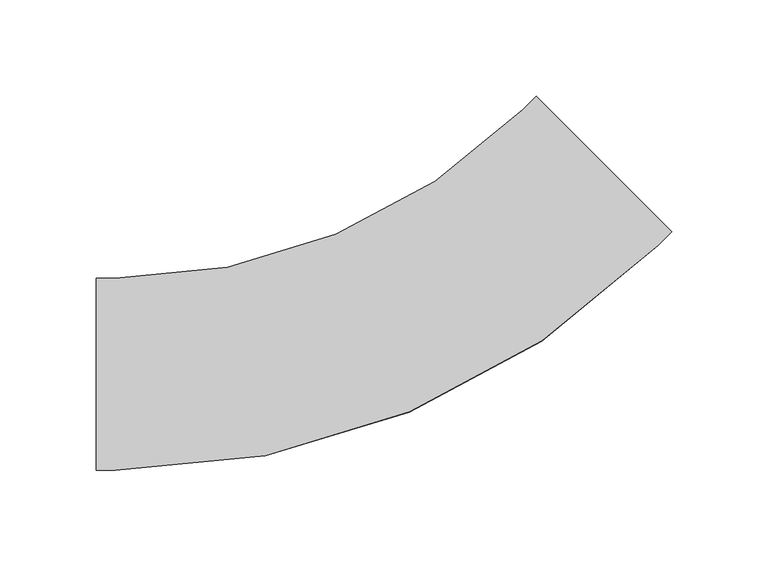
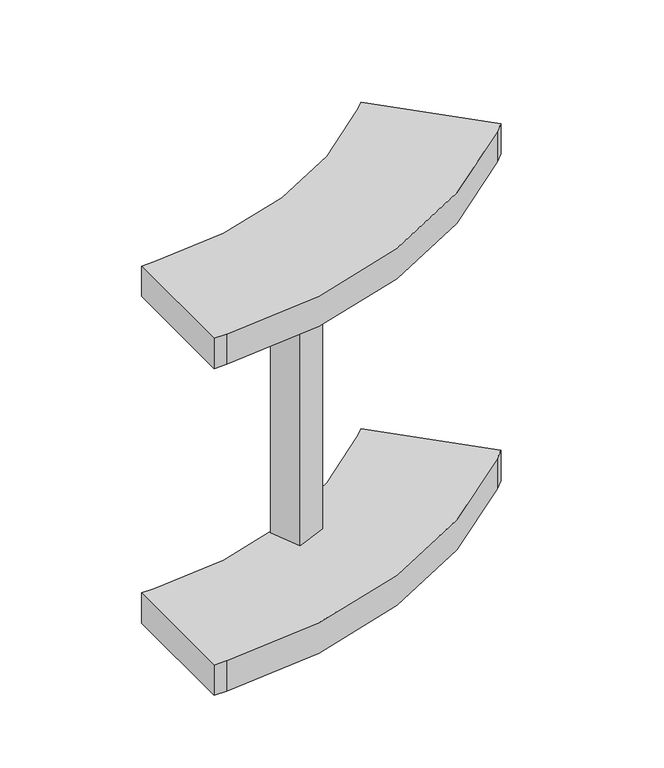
"""IFC4 building model written with IfcOpenShell, lengths in millimetres: cable carrier fitting geometry, ADSK_Поворот вертикальный наружный_Лестничный лоток : Радиус 300 мм."""

from ifc_helpers import new_model, si_unit, point, frame, frame_2d, origin, place, context, project, spatial, polyline, circle_curve, trimmed, segment, composite_curve, outline, extrude, source, transform, mapped, element, save


def cable_carrier_fitting_60ab624f(model_context):
    return source(origin(), model_context, "Body", "SweptSolid", [
        extrude(outline(polyline([(-18.4364471, 77.6962198), (-8.7162879, 54.2296797), (-32.182828, 44.5095205), (-41.9029872, 67.9760607), (-18.4364471, 77.6962198)])), frame((0.0, 0.0, -124.6), z_axis=(0.0, 0.0, 1.0), x_axis=(1.0, 0.0, 0.0)), (0.0, 0.0, 1.0), 249.2),
        extrude(outline(composite_curve([segment(polyline([(-154.9747468, -50.0), (-154.9747468, 50.0), (-144.9747468, 50.0)]), True, "CONTINUOUS"), segment(trimmed(circle_curve(frame_2d((-144.9747468, 350.0)), 300.0), [point((-144.9747468, 50.0))], [point((67.1572875, 137.8679656))], True, "CARTESIAN"), True, "CONTINUOUS"), segment(polyline([(67.1572875, 137.8679656), (74.2283553, 144.9390335), (144.9390335, 74.2283553), (137.8679656, 67.1572875)]), True, "CONTINUOUS"), segment(trimmed(circle_curve(frame_2d((-144.9747468, 350.0)), 400.0), [point((137.8679656, 67.1572875))], [point((-144.9747468, -50.0))], False, "CARTESIAN"), True, "CONTINUOUS"), segment(polyline([(-144.9747468, -50.0), (-154.9747468, -50.0)]), True, "CONTINUOUS")], self_intersect=False)), frame((0.0, 0.0, 124.6), z_axis=(0.0, 0.0, 1.0), x_axis=(1.0, 0.0, 0.0)), (0.0, 0.0, 1.0), 25.4),
        extrude(outline(composite_curve([segment(polyline([(-154.9747468, -50.0), (-154.9747468, 50.0), (-144.9747468, 50.0)]), True, "CONTINUOUS"), segment(trimmed(circle_curve(frame_2d((-144.9747468, 350.0)), 300.0), [point((-144.9747468, 50.0))], [point((67.1572875, 137.8679656))], True, "CARTESIAN"), True, "CONTINUOUS"), segment(polyline([(67.1572875, 137.8679656), (74.2283553, 144.9390335), (144.9390335, 74.2283553), (137.8679656, 67.1572875)]), True, "CONTINUOUS"), segment(trimmed(circle_curve(frame_2d((-144.9747468, 350.0)), 400.0), [point((137.8679656, 67.1572875))], [point((-144.9747468, -50.0))], False, "CARTESIAN"), True, "CONTINUOUS"), segment(polyline([(-144.9747468, -50.0), (-154.9747468, -50.0)]), True, "CONTINUOUS")], self_intersect=False)), frame((0.0, 0.0, -150.0), z_axis=(0.0, 0.0, 1.0), x_axis=(1.0, 0.0, 0.0)), (0.0, 0.0, 1.0), 25.4),
    ])


if __name__ == "__main__":
    model = new_model("IFC4")
    model_context = context("Model", 3, world=origin())
    ifc_project = project(units=[si_unit("LENGTHUNIT", "METRE", prefix="MILLI")], contexts=[model_context])
    site = spatial("IfcSite", under=ifc_project)
    building = spatial("IfcBuilding", under=site)
    placement = place(None, origin())
    cable_carrier_fitting_shape = cable_carrier_fitting_60ab624f(model_context)
    element("IfcCableCarrierFitting", 1, ObjectType="ADSK_Поворот вертикальный наружный_Лестничный лоток : Радиус 300 мм", at=placement, inside=building, context=model_context, shape_type="MappedRepresentation", body=[
        mapped(cable_carrier_fitting_shape, transform((0.0, 0.0, 0.0), x_axis=(1.0, 0.0, 0.0), y_axis=(0.0, 1.0, 0.0), z_axis=(0.0, 0.0, 1.0))),
    ])
    save(model, "model.ifc")
